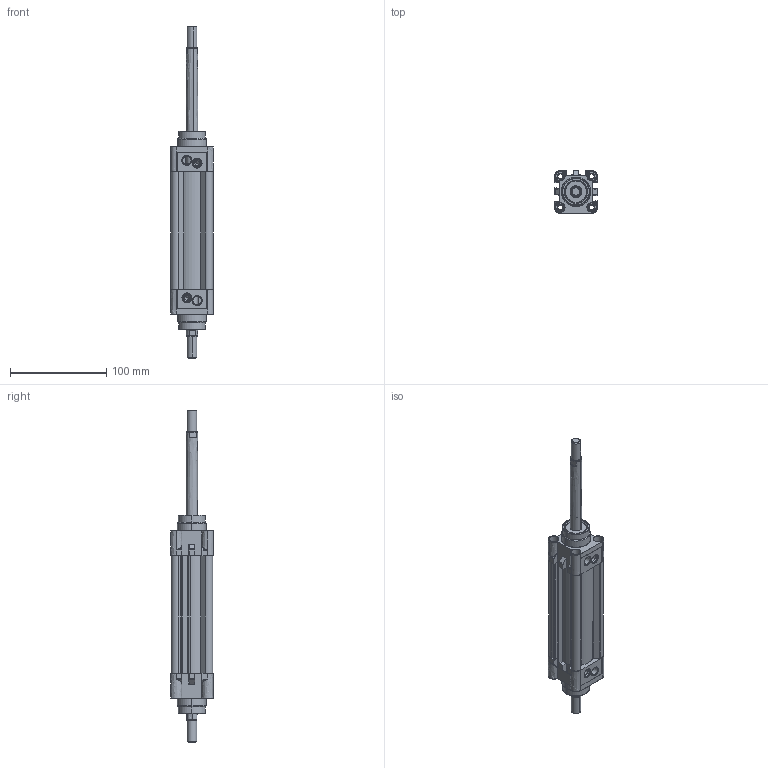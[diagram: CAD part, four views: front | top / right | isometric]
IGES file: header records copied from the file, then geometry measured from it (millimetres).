
Start section: SolidWorks IGES file using analytic representation for surfaces
Global section: file name: D:\ARICA 3D 禽Z軲LER\3D IGES\KDNT 禽FT M軱L輁KDNT32\KDNT32X80CIFTMILLI-CYLINDER.IGS; native system: SolidWorks 2013; preprocessor: SolidWorks 2013; author: user; date: 150323.095531; units: millimetre
Bounding box: 44.45 x 44.65 x 345 mm (x, y, z)
Surface area: 103491.9 mm2 (no closed solid volume)
Topology: 0 solids, 0 shells, 777 faces, 11124 edges, 11076 vertices
Faces by surface type: revolution 435, bspline 342
